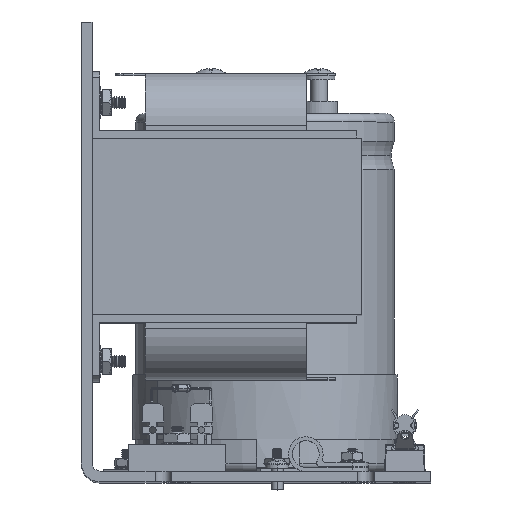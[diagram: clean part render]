
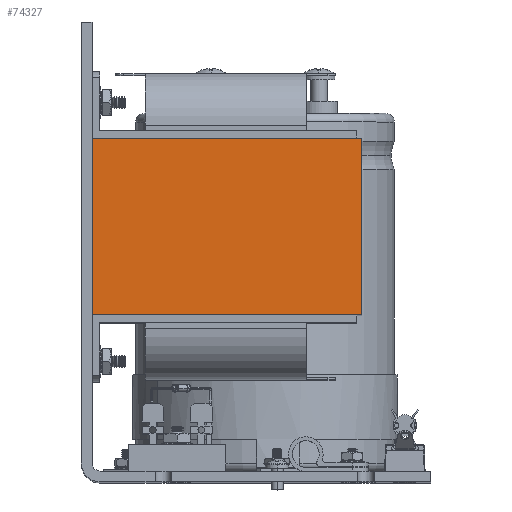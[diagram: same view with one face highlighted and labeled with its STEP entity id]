
A CAD part, top view. The second image highlights one B-rep face of the part: STEP entity #74327.
In plain terms, the highlighted planar face has unit normal (0, 0, 1).
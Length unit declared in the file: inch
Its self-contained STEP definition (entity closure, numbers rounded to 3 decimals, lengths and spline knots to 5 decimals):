
#62924=DIRECTION('',(0.,1.,0.));
#62925=VECTOR('',#62924,2.05);
#62926=CARTESIAN_POINT('',(0.125,1.81,3.8));
#62927=LINE('',#62926,#62925);
#63433=DIRECTION('',(-1.,0.,0.));
#63434=VECTOR('',#63433,3.125);
#63435=CARTESIAN_POINT('',(3.25,3.86,3.8));
#63436=LINE('',#63435,#63434);
#63440=DIRECTION('',(0.,1.,0.));
#63441=VECTOR('',#63440,2.05);
#63442=CARTESIAN_POINT('',(3.25,1.81,3.8));
#63443=LINE('',#63442,#63441);
#63475=DIRECTION('',(-1.,0.,0.));
#63476=VECTOR('',#63475,3.125);
#63477=CARTESIAN_POINT('',(3.25,1.81,3.8));
#63478=LINE('',#63477,#63476);
#72470=CARTESIAN_POINT('',(3.25,1.81,3.8));
#72471=VERTEX_POINT('',#72470);
#72855=CARTESIAN_POINT('',(3.25,3.86,3.8));
#72856=VERTEX_POINT('',#72855);
#72905=CARTESIAN_POINT('',(0.125,1.81,3.8));
#72906=VERTEX_POINT('',#72905);
#72954=CARTESIAN_POINT('',(0.125,3.86,3.8));
#72955=VERTEX_POINT('',#72954);
#74314=CARTESIAN_POINT('',(0.125,3.86,3.8));
#74315=DIRECTION('',(0.,0.,-1.));
#74316=DIRECTION('',(0.,1.,0.));
#74317=AXIS2_PLACEMENT_3D('',#74314,#74315,#74316);
#74318=PLANE('',#74317);
#74320=ORIENTED_EDGE('',*,*,#74319,.T.);
#74321=ORIENTED_EDGE('',*,*,#73916,.T.);
#74322=ORIENTED_EDGE('',*,*,#73816,.F.);
#74324=ORIENTED_EDGE('',*,*,#74323,.F.);
#74325=EDGE_LOOP('',(#74320,#74321,#74322,#74324));
#74326=FACE_OUTER_BOUND('',#74325,.F.);
#73816=EDGE_CURVE('',#72856,#72955,#63436,.T.);
#73916=EDGE_CURVE('',#72906,#72955,#62927,.T.);
#74319=EDGE_CURVE('',#72471,#72906,#63478,.T.);
#74323=EDGE_CURVE('',#72471,#72856,#63443,.T.);
#74327=ADVANCED_FACE('',(#74326),#74318,.F.);
